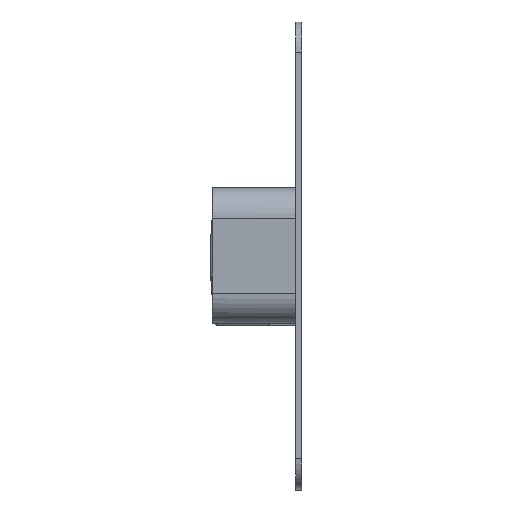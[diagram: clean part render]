
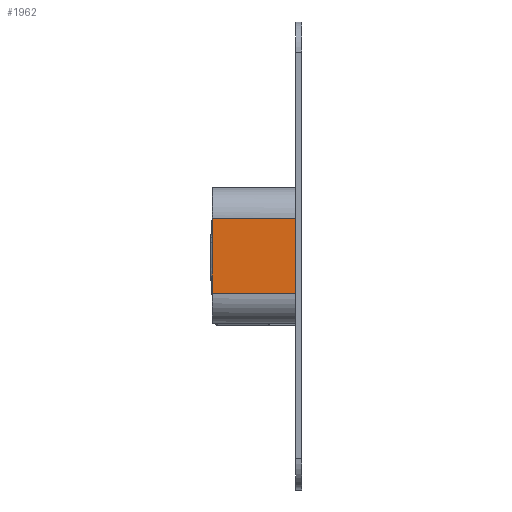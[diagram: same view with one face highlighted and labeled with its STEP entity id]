
A CAD part, top view. The second image highlights one B-rep face of the part: STEP entity #1962.
In plain terms, the highlighted planar face has unit normal (0, 0, 1).
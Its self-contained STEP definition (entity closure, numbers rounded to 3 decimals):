
#4 = ORIENTED_EDGE ( 'NONE', *, *, #28, .F. ) ;
#28 = EDGE_CURVE ( 'NONE', #1578, #3035, #3580, .T. ) ;
#35 = CARTESIAN_POINT ( 'NONE',  ( -216.276, 18.568, -223.911 ) ) ;
#266 = CARTESIAN_POINT ( 'NONE',  ( -216.197, 31.068, -223.911 ) ) ;
#294 = CARTESIAN_POINT ( 'NONE',  ( -216.197, 6.068, -223.911 ) ) ;
#382 = DIRECTION ( 'NONE',  ( 0., 1., 0. ) ) ;
#385 = DIRECTION ( 'NONE',  ( 1., 0., 0. ) ) ;
#411 = AXIS2_PLACEMENT_3D ( 'NONE', #1153, #3232, #2367 ) ;
#526 = EDGE_CURVE ( 'NONE', #2967, #1578, #3058, .T. ) ;
#645 = ORIENTED_EDGE ( 'NONE', *, *, #3279, .F. ) ;
#882 = ORIENTED_EDGE ( 'NONE', *, *, #2249, .T. ) ;
#925 = CARTESIAN_POINT ( 'NONE',  ( -216.276, 18.568, -223.911 ) ) ;
#973 = CARTESIAN_POINT ( 'NONE',  ( -220.414, 31.068, -223.911 ) ) ;
#1100 = VECTOR ( 'NONE', #385, 1000. ) ;
#1153 = CARTESIAN_POINT ( 'NONE',  ( -220.414, 38.568, -223.911 ) ) ;
#1203 = VERTEX_POINT ( 'NONE', #3493 ) ;
#1235 = VERTEX_POINT ( 'NONE', #1381 ) ;
#1344 = LINE ( 'NONE', #1894, #2452 ) ;
#1381 = CARTESIAN_POINT ( 'NONE',  ( -188.646, 31.068, -223.911 ) ) ;
#1432 = EDGE_CURVE ( 'NONE', #1203, #1235, #3087, .T. ) ;
#1578 = VERTEX_POINT ( 'NONE', #2559 ) ;
#1886 = CARTESIAN_POINT ( 'NONE',  ( -216.276, 14.401, -223.911 ) ) ;
#1894 = CARTESIAN_POINT ( 'NONE',  ( -188.646, 37.418, -223.911 ) ) ;
#1962 = ADVANCED_FACE ( 'NONE', ( #3177 ), #3485, .F. ) ;
#2249 = EDGE_CURVE ( 'NONE', #2967, #1235, #1344, .T. ) ;
#2367 = DIRECTION ( 'NONE',  ( 0., -1., 0. ) ) ;
#2452 = VECTOR ( 'NONE', #382, 1000. ) ;
#2559 = CARTESIAN_POINT ( 'NONE',  ( -216.197, 6.068, -223.911 ) ) ;
#2685 = CARTESIAN_POINT ( 'NONE',  ( -216.25, 26.901, -223.911 ) ) ;
#2727 = EDGE_LOOP ( 'NONE', ( #645, #4, #3292, #882, #3860 ) ) ;
#2747 = CARTESIAN_POINT ( 'NONE',  ( -216.276, 22.734, -223.911 ) ) ;
#2798 = DIRECTION ( 'NONE',  ( -1., 0., 0. ) ) ;
#2819 = CARTESIAN_POINT ( 'NONE',  ( -216.25, 10.234, -223.911 ) ) ;
#2967 = VERTEX_POINT ( 'NONE', #3551 ) ;
#3035 = VERTEX_POINT ( 'NONE', #35 ) ;
#3058 = LINE ( 'NONE', #3734, #3133 ) ;
#3059 = B_SPLINE_CURVE_WITH_KNOTS ( 'NONE', 3,
 ( #925, #2747, #2685, #266 ),
 .UNSPECIFIED., .F., .F.,
 ( 4, 4 ),
 ( 0., 1. ),
 .UNSPECIFIED. ) ;
#3087 = LINE ( 'NONE', #973, #1100 ) ;
#3133 = VECTOR ( 'NONE', #2798, 1000. ) ;
#3177 = FACE_OUTER_BOUND ( 'NONE', #2727, .T. ) ;
#3232 = DIRECTION ( 'NONE',  ( 0., 0., -1. ) ) ;
#3279 = EDGE_CURVE ( 'NONE', #3035, #1203, #3059, .T. ) ;
#3292 = ORIENTED_EDGE ( 'NONE', *, *, #526, .F. ) ;
#3383 = CARTESIAN_POINT ( 'NONE',  ( -216.276, 18.568, -223.911 ) ) ;
#3485 = PLANE ( 'NONE',  #411 ) ;
#3493 = CARTESIAN_POINT ( 'NONE',  ( -216.197, 31.068, -223.911 ) ) ;
#3551 = CARTESIAN_POINT ( 'NONE',  ( -188.646, 6.068, -223.911 ) ) ;
#3580 = B_SPLINE_CURVE_WITH_KNOTS ( 'NONE', 3,
 ( #294, #2819, #1886, #3383 ),
 .UNSPECIFIED., .F., .F.,
 ( 4, 4 ),
 ( 0., 1. ),
 .UNSPECIFIED. ) ;
#3734 = CARTESIAN_POINT ( 'NONE',  ( -220.414, 6.068, -223.911 ) ) ;
#3860 = ORIENTED_EDGE ( 'NONE', *, *, #1432, .F. ) ;
